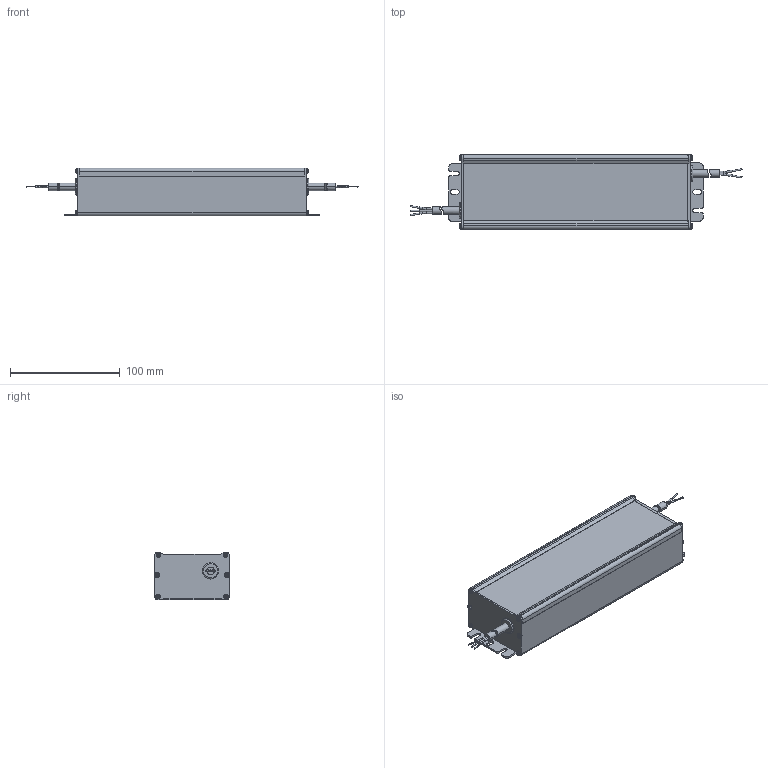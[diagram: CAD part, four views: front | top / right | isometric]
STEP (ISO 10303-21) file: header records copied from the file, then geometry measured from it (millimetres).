
FILE_DESCRIPTION((''),'2;1');
FILE_NAME('15013749Z_DMEC_232X68X43-5','2020-03-17T13:14:02',('Emanuel.Wild'),(''),'CREO PARAMETRIC BY PTC INC, 2019164','CREO PARAMETRIC BY PTC INC, 2019164','');
FILE_SCHEMA(('CONFIG_CONTROL_DESIGN'));
Products named in the file (1): 15013749Z_DMEC_232X68X43-5
Bounding box: 302.9 x 68.05 x 43.55 mm (x, y, z)
Volume: 99548.3 mm3; surface area: 114002.9 mm2
Topology: 3 solids, 3 shells, 1218 faces, 3591 edges, 2288 vertices
Faces by surface type: cylinder 550, plane 389, bspline 215, torus 64
Entity records: 90967 total; most frequent: CARTESIAN_POINT 61465, ORIENTED_EDGE 7182, DIRECTION 4686, EDGE_CURVE 3591, VERTEX_POINT 2288, AXIS2_PLACEMENT_3D 1594, B_SPLINE_CURVE_WITH_KNOTS 1502, VECTOR 1498
